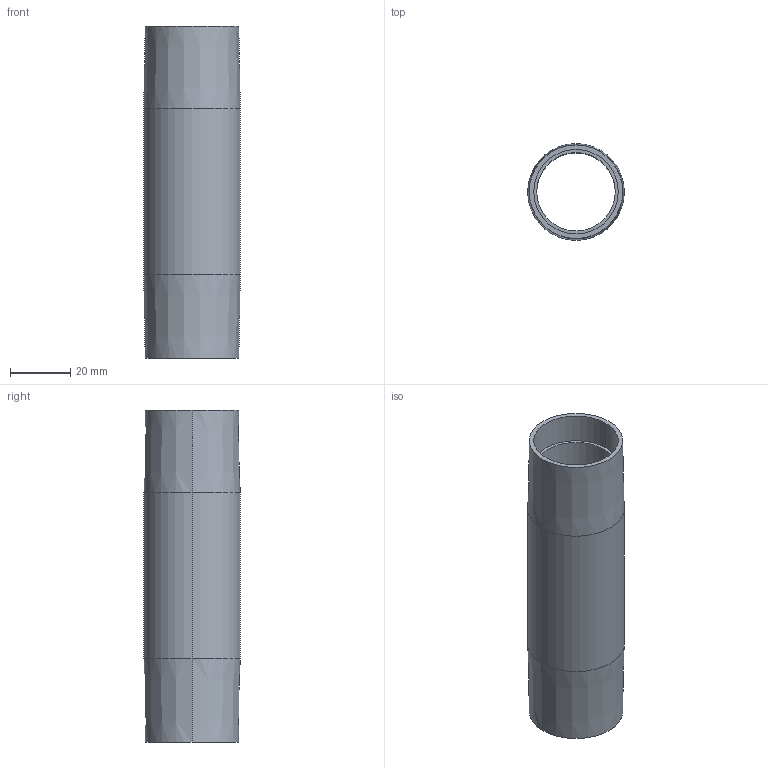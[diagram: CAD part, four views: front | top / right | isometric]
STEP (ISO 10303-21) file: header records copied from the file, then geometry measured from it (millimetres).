
FILE_DESCRIPTION (( 'STEP AP214' ), '1' );
FILE_NAME ('084.030.187.STEP', '2021-02-05T15:48:03', ( '' ), ( '' ), 'SwSTEP 2.0', 'SolidWorks 2018', '' );
FILE_SCHEMA (( 'AUTOMOTIVE_DESIGN' ));
Length unit declared in the file: millimetre
Products named in the file (1): 084.030.187
Bounding box: 32 x 32 x 110 mm (x, y, z)
Volume: 27000.7 mm3; surface area: 20531.2 mm2
Topology: 1 solids, 1 shells, 16 faces, 32 edges, 20 vertices
Faces by surface type: cylinder 8, cone 4, plane 4
Entity records: 462 total; most frequent: DIRECTION 86, CARTESIAN_POINT 69, ORIENTED_EDGE 64, AXIS2_PLACEMENT_3D 37, EDGE_CURVE 32, EDGE_LOOP 20, VERTEX_POINT 20, CIRCLE 20
